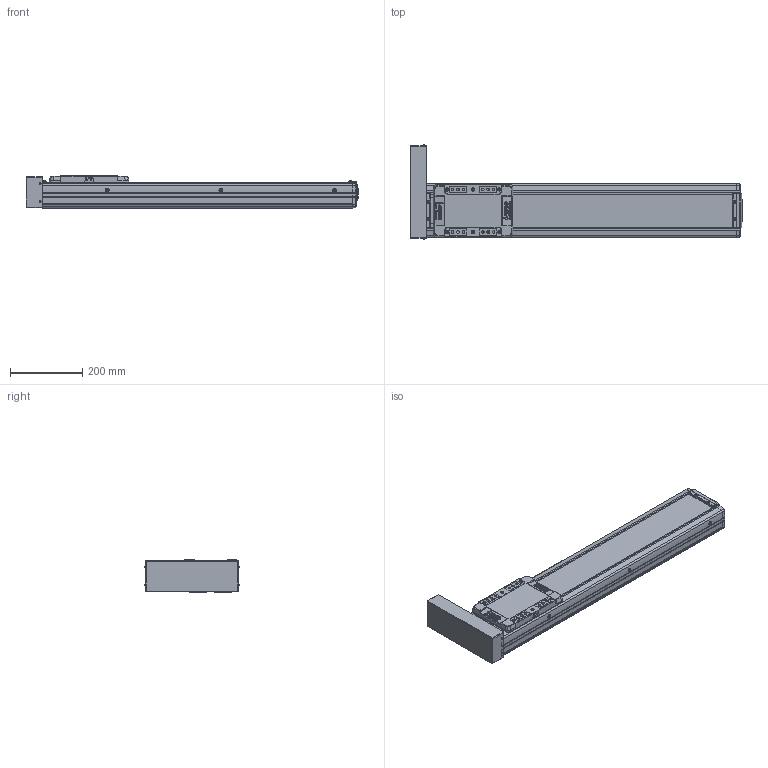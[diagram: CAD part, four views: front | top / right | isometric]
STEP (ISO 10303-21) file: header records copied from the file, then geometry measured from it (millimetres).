
FILE_DESCRIPTION(('STEP AP214'),'1');
FILE_NAME('Z:/Web/3D/SAN150/2013.04 (STP.)/SAN150ㅁㅁ-600PL.stp','2013-05-07T11:26:23',(' '),(' '),'Spatial InterOp 3D',' ',' ');
FILE_SCHEMA(('automotive_design'));
Length unit declared in the file: millimetre
Products named in the file (42): SLBL-SAN150; SLCV-SAN150; FHCS M4.0 x 8.0; BHCS M4.0 x 10.0; SFX-SAN150; RRCV-SAN150; FRBL-SAN150; Spacer; RN15; FRCV-SAN150; Screw 20; BASE-SAN150-000L ; SUS COVER; 스크루 : Round - M5.0 x 6.0; BHCS M3.0 x 6.0; P
Bounding box: 920 x 260.73 x 90 mm (x, y, z)
Volume: 5964077.2 mm3; surface area: 1015937 mm2
Topology: 42 solids, 42 shells, 2197 faces, 5628 edges, 3585 vertices
Faces by surface type: plane 1057, cylinder 781, cone 262, sphere 64, bspline 21, torus 12
Entity records: 86994 total; most frequent: CARTESIAN_POINT 14194, DIRECTION 11976, ORIENTED_EDGE 11016, EDGE_CURVE 5508, AXIS2_PLACEMENT_3D 4338, VERTEX_POINT 3585, LINE 3300, VECTOR 3300
